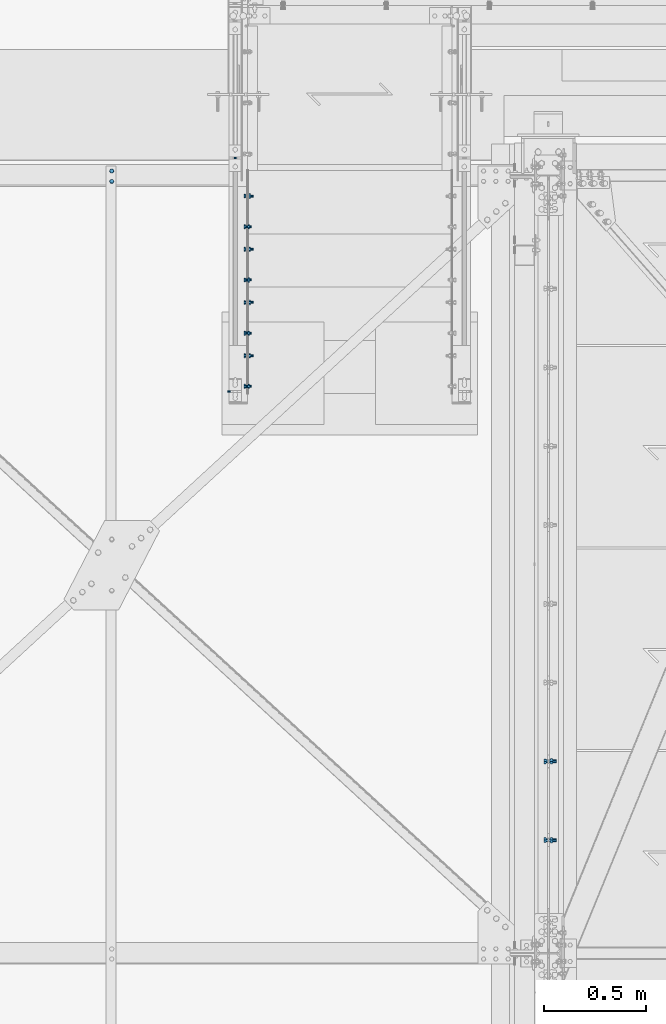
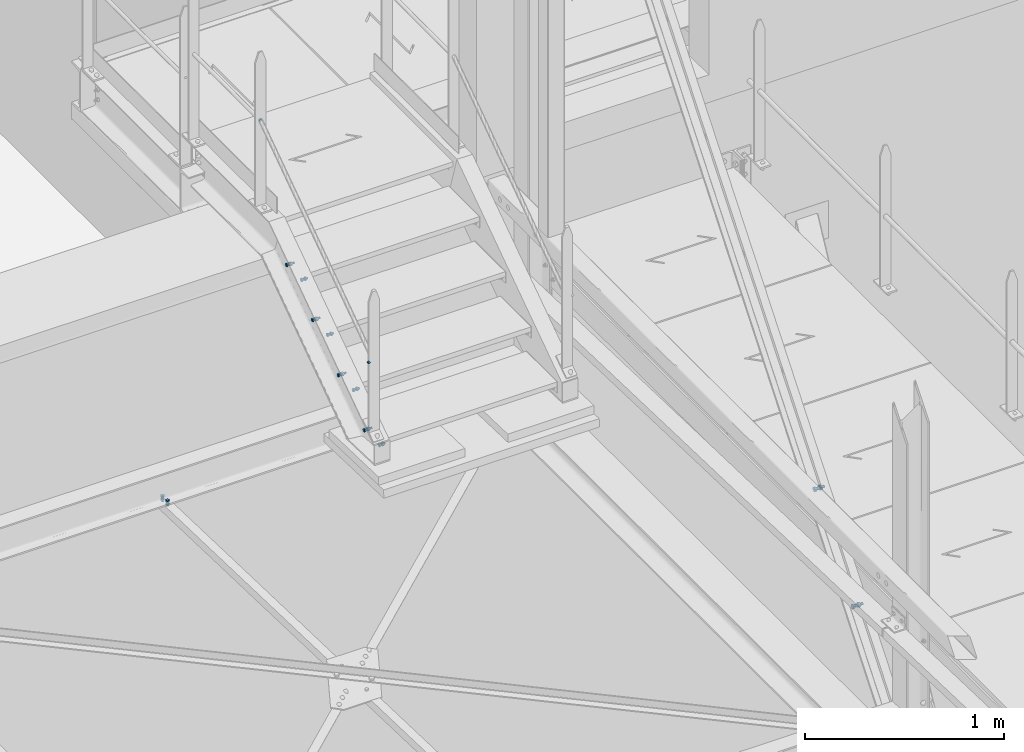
# One storey, part 250 of 362: 13 mechanical fasteners.
"""IFC2X3 building model written with IfcOpenShell, lengths in millimetres."""

from ifc_helpers import new_model, si_unit, frame, frame_2d, origin_with_axes, origin_2d_with_axis, place, context, subcontext, project, spatial, polyline, circle_curve, parameter, trimmed, segment, composite_curve, circle, outline, extrude, source, transform, mapped, material, type_object, element, save


model = new_model("IFC2X3")

# Units and contexts
model_context = context("Model", 3, precision=1e-05, world=origin_with_axes())
body_context = subcontext(model_context, "Body", "Model", "MODEL_VIEW")
ifc_project = project(units=[si_unit("LENGTHUNIT", "METRE", prefix="MILLI"), si_unit("AREAUNIT", "SQUARE_METRE"), si_unit("VOLUMEUNIT", "CUBIC_METRE"), si_unit("MASSUNIT", "GRAM", prefix="KILO"), si_unit("TIMEUNIT", "SECOND"), si_unit("PLANEANGLEUNIT", "RADIAN"), si_unit("SOLIDANGLEUNIT", "STERADIAN"), si_unit("THERMODYNAMICTEMPERATUREUNIT", "DEGREE_CELSIUS"), si_unit("LUMINOUSINTENSITYUNIT", "LUMEN")], contexts=[model_context])

# Site, building, storey
site_placement = place(None, origin_with_axes())
site = spatial("IfcSite", under=ifc_project, at=site_placement, Name="Undefined", CompositionType="ELEMENT")
building_placement = place(site_placement, origin_with_axes())
building = spatial("IfcBuilding", under=site, at=building_placement, Name="Undefined", CompositionType="ELEMENT")
storey_placement = place(building_placement, origin_with_axes())
storey = spatial("IfcBuildingStorey", under=building, at=storey_placement, Name="Undefined", CompositionType="ELEMENT", Elevation=0.0)

# Mechanical fasteners
ifc_material_1 = material(Name="6.8")
mechanical_fastener_type = type_object("IfcMechanicalFastenerType", Name="Bolt assembly")
shared_shape_1 = source(origin_with_axes(), body_context, "Body", "SweptSolid", [
    extrude(circle(Radius=7.0, at=origin_2d_with_axis()), frame((0.0, 6.26397177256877e-05, 0.0), z_axis=(0.0, 1.0, 0.0), x_axis=(1.0, 0.0, 0.0)), (0.0, 0.0, 1.0), 10.1),
])
mechanical_fastener_1_placement = place(storey_placement, frame((11149.9863365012, 15290.0038659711, 9438.8), z_axis=(0.0, 0.0, -1.0), x_axis=(1.0, 0.0, 0.0)))
element("IfcMechanicalFastener", 1, at=mechanical_fastener_1_placement, inside=storey, type_object=mechanical_fastener_type, material=ifc_material_1, Name="Bolt assembly", NominalDiameter=12.0, NominalLength=10.0, context=body_context, shape_type="MappedRepresentation", body=[
    mapped(shared_shape_1, transform((0.0, 0.0, 0.0))),
])
shared_shape_2 = source(origin_with_axes(), body_context, "Body", "SweptSolid", [
    extrude(circle(Radius=7.0, at=origin_2d_with_axis()), frame((0.0, 0.000125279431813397, 0.0), z_axis=(0.0, 1.0, 0.0), x_axis=(1.0, 0.0, 0.0)), (0.0, 0.0, 1.0), 10.1),
])
mechanical_fastener_2_placement = place(storey_placement, frame((11119.9864722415, 14149.9999163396, 8654.59997578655), z_axis=(0.0, 0.0, -1.0), x_axis=(1.0, 0.0, 0.0)))
element("IfcMechanicalFastener", 2, at=mechanical_fastener_2_placement, inside=storey, type_object=mechanical_fastener_type, material=ifc_material_1, Name="Bolt assembly", NominalDiameter=12.0, NominalLength=10.0, context=body_context, shape_type="MappedRepresentation", body=[
    mapped(shared_shape_2, transform((0.0, 0.0, 0.0))),
])
ifc_material_2 = material(Name="8.8-SB-GALVA")
shared_shape_3 = source(origin_with_axes(), body_context, "Body", "SweptSolid", [
    extrude(circle(Radius=7.0, at=origin_2d_with_axis()), frame((0.0, -9.88995939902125, 0.0), z_axis=(0.0, 1.0, 0.0), x_axis=(1.0, 0.0, 0.0)), (0.0, 0.0, 1.0), 10.0),
    extrude(circle(Radius=7.0, at=origin_2d_with_axis()), frame((0.0, -0.100011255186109, 0.0), z_axis=(0.0, 1.0, 0.0), x_axis=(1.0, 0.0, 0.0)), (0.0, 0.0, 1.0), 3.1),
    extrude(outline(polyline([(10.39230484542, 0.0), (5.19615242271, 9.00000000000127), (-5.19615242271, 9.00000000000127), (-10.39230484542, 0.0), (-5.19615242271, -9.00000000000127), (5.19615242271, -9.00000000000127), (10.39230484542, 0.0)])), frame((0.0, -17.9099593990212, 0.0), z_axis=(0.0, 1.0, 0.0), x_axis=(1.0, 0.0, 0.0)), (0.0, 0.0, 1.0), 7.92),
    extrude(circle(Radius=6.0, at=origin_2d_with_axis()), frame((0.0, -9.98995939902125, 0.0), z_axis=(0.0, 1.0, 0.0), x_axis=(1.0, 0.0, 0.0)), (0.0, 0.0, 1.0), 30.0),
    extrude(outline(polyline([(11.5008173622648, 0.0), (5.7504086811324, 9.96000000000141), (-5.7504086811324, 9.96000000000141), (-11.5008173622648, 0.0), (-5.7504086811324, -9.96000000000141), (5.7504086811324, -9.96000000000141), (11.5008173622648, 0.0)])), frame((0.0, 3.00000067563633, 0.0), z_axis=(0.0, 1.0, 0.0), x_axis=(1.0, 0.0, 0.0)), (0.0, 0.0, 1.0), 7.92),
])
mechanical_fastener_3_placement = place(storey_placement, frame((11209.9947340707, 14949.9997910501, 8645.0), z_axis=(0.0, 0.0, -1.0), x_axis=(0.0, 1.0, 0.0)))
element("IfcMechanicalFastener", 3, at=mechanical_fastener_3_placement, inside=storey, type_object=mechanical_fastener_type, material=ifc_material_2, Name="Bolt assembly", NominalDiameter=12.0, NominalLength=30.0, context=body_context, shape_type="MappedRepresentation", body=[
    mapped(shared_shape_3, transform((0.0, 0.0, 0.0))),
])
shared_shape_4 = source(origin_with_axes(), body_context, "Body", "SweptSolid", [
    extrude(circle(Radius=7.0, at=origin_2d_with_axis()), frame((0.0, -9.88995939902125, 0.0), z_axis=(0.0, 1.0, 0.0), x_axis=(1.0, 0.0, 0.0)), (0.0, 0.0, 1.0), 10.0),
    extrude(outline(composite_curve([segment(polyline([(-7.0, 7.0), (7.0, 7.0)]), True, "CONTINUOUS"), segment(trimmed(circle_curve(frame_2d((7.0, 0.0), x_axis=(0.0, 1.0)), 7.0), [parameter(0.0)], [parameter(3.14159265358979)], False, "PARAMETER"), True, "CONTINUOUS"), segment(polyline([(7.0, -7.0), (-7.0, -7.0)]), True, "CONTINUOUS"), segment(trimmed(circle_curve(frame_2d((-7.0, 0.0), x_axis=(0.0, -1.0)), 7.0), [parameter(0.0)], [parameter(3.14159265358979)], False, "PARAMETER"), True, "DISCONTINUOUS")], self_intersect=False)), frame((0.0, -0.100011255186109, 0.0), z_axis=(0.0, 1.0, 0.0), x_axis=(1.0, 0.0, 0.0)), (0.0, 0.0, 1.0), 3.1),
    extrude(outline(polyline([(10.39230484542, 0.0), (5.19615242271, 9.00000000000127), (-5.19615242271, 9.00000000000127), (-10.39230484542, 0.0), (-5.19615242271, -9.00000000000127), (5.19615242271, -9.00000000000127), (10.39230484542, 0.0)])), frame((0.0, -17.9099593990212, 0.0), z_axis=(0.0, 1.0, 0.0), x_axis=(1.0, 0.0, 0.0)), (0.0, 0.0, 1.0), 7.92),
    extrude(circle(Radius=6.0, at=origin_2d_with_axis()), frame((0.0, -9.98995939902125, 0.0), z_axis=(0.0, 1.0, 0.0), x_axis=(1.0, 0.0, 0.0)), (0.0, 0.0, 1.0), 40.0),
    extrude(circle(Radius=10.8, at=origin_2d_with_axis()), frame((0.0, 3.00000067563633, 0.0), z_axis=(0.0, 1.0, 0.0), x_axis=(1.0, 0.0, 0.0)), (0.0, 0.0, 1.0), 3.96),
    extrude(outline(polyline([(11.5008173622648, 0.0), (5.7504086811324, 9.96000000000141), (-5.7504086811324, 9.96000000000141), (-11.5008173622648, 0.0), (-5.7504086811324, -9.96000000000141), (5.7504086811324, -9.96000000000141), (11.5008173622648, 0.0)])), frame((0.0, 6.96, 0.0), z_axis=(0.0, 1.0, 0.0), x_axis=(1.0, 0.0, 0.0)), (0.0, 0.0, 1.0), 7.92),
])
mechanical_fastener_4_placement = place(storey_placement, frame((11209.9947340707, 15099.9997910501, 8645.0), z_axis=(0.0, 0.0, -1.0), x_axis=(0.0, 1.0, 0.0)))
element("IfcMechanicalFastener", 4, at=mechanical_fastener_4_placement, inside=storey, type_object=mechanical_fastener_type, material=ifc_material_2, Name="Bolt assembly", NominalDiameter=12.0, NominalLength=40.0, context=body_context, shape_type="MappedRepresentation", body=[
    mapped(shared_shape_4, transform((0.0, 0.0, 0.0))),
])
shared_shape_5 = source(origin_with_axes(), body_context, "Body", "SweptSolid", [
    extrude(circle(Radius=7.0, at=origin_2d_with_axis()), frame((0.0, -9.88941643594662, 0.0), z_axis=(0.0, 1.0, 0.0), x_axis=(1.0, 0.0, 0.0)), (0.0, 0.0, 1.0), 10.0),
    extrude(circle(Radius=7.0, at=origin_2d_with_axis()), frame((0.0, -0.100011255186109, 0.0), z_axis=(0.0, 1.0, 0.0), x_axis=(1.0, 0.0, 0.0)), (0.0, 0.0, 1.0), 3.1),
    extrude(outline(polyline([(10.39230484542, 0.0), (5.19615242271, 9.00000000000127), (-5.19615242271, 9.00000000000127), (-10.39230484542, 0.0), (-5.19615242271, -9.00000000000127), (5.19615242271, -9.00000000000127), (10.39230484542, 0.0)])), frame((0.0, -17.9094164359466, 0.0), z_axis=(0.0, 1.0, 0.0), x_axis=(1.0, 0.0, 0.0)), (0.0, 0.0, 1.0), 7.92),
    extrude(circle(Radius=6.0, at=origin_2d_with_axis()), frame((0.0, -9.98941643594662, 0.0), z_axis=(0.0, 1.0, 0.0), x_axis=(1.0, 0.0, 0.0)), (0.0, 0.0, 1.0), 30.0),
    extrude(outline(polyline([(11.5008173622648, 0.0), (5.7504086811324, 9.96000000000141), (-5.7504086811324, 9.96000000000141), (-11.5008173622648, 0.0), (-5.7504086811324, -9.96000000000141), (5.7504086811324, -9.96000000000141), (11.5008173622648, 0.0)])), frame((0.0, 3.00000067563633, 0.0), z_axis=(0.0, 1.0, 0.0), x_axis=(1.0, 0.0, 0.0)), (0.0, 0.0, 1.0), 7.92),
])
mechanical_fastener_5_placement = place(storey_placement, frame((11209.9947340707, 14689.9997910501, 8465.00000004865), z_axis=(0.0, 0.0, -1.0), x_axis=(0.0, 1.0, 0.0)))
element("IfcMechanicalFastener", 5, at=mechanical_fastener_5_placement, inside=storey, type_object=mechanical_fastener_type, material=ifc_material_2, Name="Bolt assembly", NominalDiameter=12.0, NominalLength=30.0, context=body_context, shape_type="MappedRepresentation", body=[
    mapped(shared_shape_5, transform((0.0, 0.0, 0.0))),
])
shared_shape_6 = source(origin_with_axes(), body_context, "Body", "SweptSolid", [
    extrude(circle(Radius=7.0, at=origin_2d_with_axis()), frame((0.0, -9.88941643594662, 0.0), z_axis=(0.0, 1.0, 0.0), x_axis=(1.0, 0.0, 0.0)), (0.0, 0.0, 1.0), 10.0),
    extrude(outline(composite_curve([segment(polyline([(-7.0, 7.0), (7.0, 7.0)]), True, "CONTINUOUS"), segment(trimmed(circle_curve(frame_2d((7.0, 0.0), x_axis=(0.0, 1.0)), 7.0), [parameter(0.0)], [parameter(3.14159265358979)], False, "PARAMETER"), True, "CONTINUOUS"), segment(polyline([(7.0, -7.0), (-7.0, -7.0)]), True, "CONTINUOUS"), segment(trimmed(circle_curve(frame_2d((-7.0, 0.0), x_axis=(0.0, -1.0)), 7.0), [parameter(0.0)], [parameter(3.14159265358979)], False, "PARAMETER"), True, "DISCONTINUOUS")], self_intersect=False)), frame((0.0, -0.100011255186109, 0.0), z_axis=(0.0, 1.0, 0.0), x_axis=(1.0, 0.0, 0.0)), (0.0, 0.0, 1.0), 3.1),
    extrude(outline(polyline([(10.39230484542, 0.0), (5.19615242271, 9.00000000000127), (-5.19615242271, 9.00000000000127), (-10.39230484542, 0.0), (-5.19615242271, -9.00000000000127), (5.19615242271, -9.00000000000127), (10.39230484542, 0.0)])), frame((0.0, -17.9094164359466, 0.0), z_axis=(0.0, 1.0, 0.0), x_axis=(1.0, 0.0, 0.0)), (0.0, 0.0, 1.0), 7.92),
    extrude(circle(Radius=6.0, at=origin_2d_with_axis()), frame((0.0, -9.98941643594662, 0.0), z_axis=(0.0, 1.0, 0.0), x_axis=(1.0, 0.0, 0.0)), (0.0, 0.0, 1.0), 40.0),
    extrude(circle(Radius=10.8, at=origin_2d_with_axis()), frame((0.0, 3.00000067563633, 0.0), z_axis=(0.0, 1.0, 0.0), x_axis=(1.0, 0.0, 0.0)), (0.0, 0.0, 1.0), 3.96),
    extrude(outline(polyline([(11.5008173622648, 0.0), (5.7504086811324, 9.96000000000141), (-5.7504086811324, 9.96000000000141), (-11.5008173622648, 0.0), (-5.7504086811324, -9.96000000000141), (5.7504086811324, -9.96000000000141), (11.5008173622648, 0.0)])), frame((0.0, 6.96, 0.0), z_axis=(0.0, 1.0, 0.0), x_axis=(1.0, 0.0, 0.0)), (0.0, 0.0, 1.0), 7.92),
])
mechanical_fastener_6_placement = place(storey_placement, frame((11209.9947340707, 14839.9997910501, 8465.00000004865), z_axis=(0.0, 0.0, -1.0), x_axis=(0.0, 1.0, 0.0)))
element("IfcMechanicalFastener", 6, at=mechanical_fastener_6_placement, inside=storey, type_object=mechanical_fastener_type, material=ifc_material_2, Name="Bolt assembly", NominalDiameter=12.0, NominalLength=40.0, context=body_context, shape_type="MappedRepresentation", body=[
    mapped(shared_shape_6, transform((0.0, 0.0, 0.0))),
])
shared_shape_7 = source(origin_with_axes(), body_context, "Body", "SweptSolid", [
    extrude(circle(Radius=7.0, at=origin_2d_with_axis()), frame((0.0, -9.888873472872, 0.0), z_axis=(0.0, 1.0, 0.0), x_axis=(1.0, 0.0, 0.0)), (0.0, 0.0, 1.0), 10.0),
    extrude(circle(Radius=7.0, at=origin_2d_with_axis()), frame((0.0, -0.100011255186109, 0.0), z_axis=(0.0, 1.0, 0.0), x_axis=(1.0, 0.0, 0.0)), (0.0, 0.0, 1.0), 3.1),
    extrude(outline(polyline([(10.39230484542, 0.0), (5.19615242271, 9.00000000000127), (-5.19615242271, 9.00000000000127), (-10.39230484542, 0.0), (-5.19615242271, -9.00000000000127), (5.19615242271, -9.00000000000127), (10.39230484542, 0.0)])), frame((0.0, -17.908873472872, 0.0), z_axis=(0.0, 1.0, 0.0), x_axis=(1.0, 0.0, 0.0)), (0.0, 0.0, 1.0), 7.92),
    extrude(circle(Radius=6.0, at=origin_2d_with_axis()), frame((0.0, -9.988873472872, 0.0), z_axis=(0.0, 1.0, 0.0), x_axis=(1.0, 0.0, 0.0)), (0.0, 0.0, 1.0), 30.0),
    extrude(outline(polyline([(11.5008173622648, 0.0), (5.7504086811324, 9.96000000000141), (-5.7504086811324, 9.96000000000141), (-11.5008173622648, 0.0), (-5.7504086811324, -9.96000000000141), (5.7504086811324, -9.96000000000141), (11.5008173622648, 0.0)])), frame((0.0, 3.00000067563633, 0.0), z_axis=(0.0, 1.0, 0.0), x_axis=(1.0, 0.0, 0.0)), (0.0, 0.0, 1.0), 7.92),
])
mechanical_fastener_7_placement = place(storey_placement, frame((11209.9947340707, 14429.9997910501, 8285.00000007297), z_axis=(0.0, 0.0, -1.0), x_axis=(0.0, 1.0, 0.0)))
element("IfcMechanicalFastener", 7, at=mechanical_fastener_7_placement, inside=storey, type_object=mechanical_fastener_type, material=ifc_material_2, Name="Bolt assembly", NominalDiameter=12.0, NominalLength=30.0, context=body_context, shape_type="MappedRepresentation", body=[
    mapped(shared_shape_7, transform((0.0, 0.0, 0.0))),
])
shared_shape_8 = source(origin_with_axes(), body_context, "Body", "SweptSolid", [
    extrude(circle(Radius=7.0, at=origin_2d_with_axis()), frame((0.0, -9.888873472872, 0.0), z_axis=(0.0, 1.0, 0.0), x_axis=(1.0, 0.0, 0.0)), (0.0, 0.0, 1.0), 10.0),
    extrude(outline(composite_curve([segment(polyline([(-7.0, 7.0), (7.0, 7.0)]), True, "CONTINUOUS"), segment(trimmed(circle_curve(frame_2d((7.0, 0.0), x_axis=(0.0, 1.0)), 7.0), [parameter(0.0)], [parameter(3.14159265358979)], False, "PARAMETER"), True, "CONTINUOUS"), segment(polyline([(7.0, -7.0), (-7.0, -7.0)]), True, "CONTINUOUS"), segment(trimmed(circle_curve(frame_2d((-7.0, 0.0), x_axis=(0.0, -1.0)), 7.0), [parameter(0.0)], [parameter(3.14159265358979)], False, "PARAMETER"), True, "DISCONTINUOUS")], self_intersect=False)), frame((0.0, -0.100011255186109, 0.0), z_axis=(0.0, 1.0, 0.0), x_axis=(1.0, 0.0, 0.0)), (0.0, 0.0, 1.0), 3.1),
    extrude(outline(polyline([(10.39230484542, 0.0), (5.19615242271, 9.00000000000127), (-5.19615242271, 9.00000000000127), (-10.39230484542, 0.0), (-5.19615242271, -9.00000000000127), (5.19615242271, -9.00000000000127), (10.39230484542, 0.0)])), frame((0.0, -17.908873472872, 0.0), z_axis=(0.0, 1.0, 0.0), x_axis=(1.0, 0.0, 0.0)), (0.0, 0.0, 1.0), 7.92),
    extrude(circle(Radius=6.0, at=origin_2d_with_axis()), frame((0.0, -9.988873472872, 0.0), z_axis=(0.0, 1.0, 0.0), x_axis=(1.0, 0.0, 0.0)), (0.0, 0.0, 1.0), 40.0),
    extrude(circle(Radius=10.8, at=origin_2d_with_axis()), frame((0.0, 3.00000067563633, 0.0), z_axis=(0.0, 1.0, 0.0), x_axis=(1.0, 0.0, 0.0)), (0.0, 0.0, 1.0), 3.96),
    extrude(outline(polyline([(11.5008173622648, 0.0), (5.7504086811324, 9.96000000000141), (-5.7504086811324, 9.96000000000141), (-11.5008173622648, 0.0), (-5.7504086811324, -9.96000000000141), (5.7504086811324, -9.96000000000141), (11.5008173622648, 0.0)])), frame((0.0, 6.96, 0.0), z_axis=(0.0, 1.0, 0.0), x_axis=(1.0, 0.0, 0.0)), (0.0, 0.0, 1.0), 7.92),
])
mechanical_fastener_8_placement = place(storey_placement, frame((11209.9947340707, 14579.9997910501, 8285.00000007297), z_axis=(0.0, 0.0, -1.0), x_axis=(0.0, 1.0, 0.0)))
element("IfcMechanicalFastener", 8, at=mechanical_fastener_8_placement, inside=storey, type_object=mechanical_fastener_type, material=ifc_material_2, Name="Bolt assembly", NominalDiameter=12.0, NominalLength=40.0, context=body_context, shape_type="MappedRepresentation", body=[
    mapped(shared_shape_8, transform((0.0, 0.0, 0.0))),
])
shared_shape_9 = source(origin_with_axes(), body_context, "Body", "SweptSolid", [
    extrude(circle(Radius=7.0, at=origin_2d_with_axis()), frame((0.0, -9.88833050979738, 0.0), z_axis=(0.0, 1.0, 0.0), x_axis=(1.0, 0.0, 0.0)), (0.0, 0.0, 1.0), 10.0),
    extrude(circle(Radius=7.0, at=origin_2d_with_axis()), frame((0.0, -0.100011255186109, 0.0), z_axis=(0.0, 1.0, 0.0), x_axis=(1.0, 0.0, 0.0)), (0.0, 0.0, 1.0), 3.1),
    extrude(outline(polyline([(10.39230484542, 0.0), (5.19615242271, 9.00000000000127), (-5.19615242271, 9.00000000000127), (-10.39230484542, 0.0), (-5.19615242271, -9.00000000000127), (5.19615242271, -9.00000000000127), (10.39230484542, 0.0)])), frame((0.0, -17.9083305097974, 0.0), z_axis=(0.0, 1.0, 0.0), x_axis=(1.0, 0.0, 0.0)), (0.0, 0.0, 1.0), 7.92),
    extrude(circle(Radius=6.0, at=origin_2d_with_axis()), frame((0.0, -9.98833050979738, 0.0), z_axis=(0.0, 1.0, 0.0), x_axis=(1.0, 0.0, 0.0)), (0.0, 0.0, 1.0), 30.0),
    extrude(outline(polyline([(11.5008173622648, 0.0), (5.7504086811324, 9.96000000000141), (-5.7504086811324, 9.96000000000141), (-11.5008173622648, 0.0), (-5.7504086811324, -9.96000000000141), (5.7504086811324, -9.96000000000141), (11.5008173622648, 0.0)])), frame((0.0, 3.00000067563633, 0.0), z_axis=(0.0, 1.0, 0.0), x_axis=(1.0, 0.0, 0.0)), (0.0, 0.0, 1.0), 7.92),
])
mechanical_fastener_9_placement = place(storey_placement, frame((11209.9947340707, 14169.9997910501, 8105.0000000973), z_axis=(0.0, 0.0, -1.0), x_axis=(0.0, 1.0, 0.0)))
element("IfcMechanicalFastener", 9, at=mechanical_fastener_9_placement, inside=storey, type_object=mechanical_fastener_type, material=ifc_material_2, Name="Bolt assembly", NominalDiameter=12.0, NominalLength=30.0, context=body_context, shape_type="MappedRepresentation", body=[
    mapped(shared_shape_9, transform((0.0, 0.0, 0.0))),
])
shared_shape_10 = source(origin_with_axes(), body_context, "Body", "SweptSolid", [
    extrude(circle(Radius=7.0, at=origin_2d_with_axis()), frame((0.0, -9.88833050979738, 0.0), z_axis=(0.0, 1.0, 0.0), x_axis=(1.0, 0.0, 0.0)), (0.0, 0.0, 1.0), 10.0),
    extrude(outline(composite_curve([segment(polyline([(-7.0, 7.0), (7.0, 7.0)]), True, "CONTINUOUS"), segment(trimmed(circle_curve(frame_2d((7.0, 0.0), x_axis=(0.0, 1.0)), 7.0), [parameter(0.0)], [parameter(3.14159265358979)], False, "PARAMETER"), True, "CONTINUOUS"), segment(polyline([(7.0, -7.0), (-7.0, -7.0)]), True, "CONTINUOUS"), segment(trimmed(circle_curve(frame_2d((-7.0, 0.0), x_axis=(0.0, -1.0)), 7.0), [parameter(0.0)], [parameter(3.14159265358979)], False, "PARAMETER"), True, "DISCONTINUOUS")], self_intersect=False)), frame((0.0, -0.100011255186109, 0.0), z_axis=(0.0, 1.0, 0.0), x_axis=(1.0, 0.0, 0.0)), (0.0, 0.0, 1.0), 3.1),
    extrude(outline(polyline([(10.39230484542, 0.0), (5.19615242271, 9.00000000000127), (-5.19615242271, 9.00000000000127), (-10.39230484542, 0.0), (-5.19615242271, -9.00000000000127), (5.19615242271, -9.00000000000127), (10.39230484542, 0.0)])), frame((0.0, -17.9083305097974, 0.0), z_axis=(0.0, 1.0, 0.0), x_axis=(1.0, 0.0, 0.0)), (0.0, 0.0, 1.0), 7.92),
    extrude(circle(Radius=6.0, at=origin_2d_with_axis()), frame((0.0, -9.98833050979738, 0.0), z_axis=(0.0, 1.0, 0.0), x_axis=(1.0, 0.0, 0.0)), (0.0, 0.0, 1.0), 40.0),
    extrude(circle(Radius=10.8, at=origin_2d_with_axis()), frame((0.0, 3.00000067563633, 0.0), z_axis=(0.0, 1.0, 0.0), x_axis=(1.0, 0.0, 0.0)), (0.0, 0.0, 1.0), 3.96),
    extrude(outline(polyline([(11.5008173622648, 0.0), (5.7504086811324, 9.96000000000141), (-5.7504086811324, 9.96000000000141), (-11.5008173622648, 0.0), (-5.7504086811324, -9.96000000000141), (5.7504086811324, -9.96000000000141), (11.5008173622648, 0.0)])), frame((0.0, 6.96, 0.0), z_axis=(0.0, 1.0, 0.0), x_axis=(1.0, 0.0, 0.0)), (0.0, 0.0, 1.0), 7.92),
])
mechanical_fastener_10_placement = place(storey_placement, frame((11209.9947340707, 14319.9997910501, 8105.0000000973), z_axis=(0.0, 0.0, -1.0), x_axis=(0.0, 1.0, 0.0)))
element("IfcMechanicalFastener", 10, at=mechanical_fastener_10_placement, inside=storey, type_object=mechanical_fastener_type, material=ifc_material_2, Name="Bolt assembly", NominalDiameter=12.0, NominalLength=40.0, context=body_context, shape_type="MappedRepresentation", body=[
    mapped(shared_shape_10, transform((0.0, 0.0, 0.0))),
])
ifc_material_3 = material(Name="8.8-SB-ZINGUE")
shared_shape_11 = source(origin_with_axes(), body_context, "Body", "SweptSolid", [
    extrude(circle(Radius=9.0, at=origin_2d_with_axis()), frame((0.0, -10.9000000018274, 0.0), z_axis=(0.0, 1.0, 0.0), x_axis=(1.0, 0.0, 0.0)), (0.0, 0.0, 1.0), 6.0),
    extrude(circle(Radius=9.0, at=origin_2d_with_axis()), frame((0.0, 4.9000000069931, 0.0), z_axis=(0.0, 1.0, 0.0), x_axis=(1.0, 0.0, 0.0)), (0.0, 0.0, 1.0), 6.1),
    extrude(circle(Radius=9.0, at=origin_2d_with_axis()), frame((0.0, -3.99999923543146, 0.0), z_axis=(0.0, 1.0, 0.0), x_axis=(1.0, 0.0, 0.0)), (0.0, 0.0, 1.0), 8.0),
    extrude(outline(polyline([(13.85640646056, 0.0), (6.92820323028, 12.0000000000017), (-6.92820323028, 12.0000000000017), (-13.85640646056, 0.0), (-6.92820323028, -12.0000000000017), (6.92820323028, -12.0000000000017), (13.85640646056, 0.0)])), frame((0.0, -21.5600000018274, 0.0), z_axis=(0.0, 1.0, 0.0), x_axis=(1.0, 0.0, 0.0)), (0.0, 0.0, 1.0), 10.56),
    extrude(circle(Radius=8.0, at=origin_2d_with_axis()), frame((0.0, -11.0000000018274, 0.0), z_axis=(0.0, 1.0, 0.0), x_axis=(1.0, 0.0, 0.0)), (0.0, 0.0, 1.0), 50.0),
    extrude(outline(polyline([(15.3344231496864, 0.0), (7.6672115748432, 13.2800000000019), (-7.6672115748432, 13.2800000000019), (-15.3344231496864, 0.0), (-7.6672115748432, -13.2800000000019), (7.6672115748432, -13.2800000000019), (15.3344231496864, 0.0)])), frame((0.0, 11.0000000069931, 0.0), z_axis=(0.0, 1.0, 0.0), x_axis=(1.0, 0.0, 0.0)), (0.0, 0.0, 1.0), 10.56),
])
for number, where, z_axis, x_axis, name in (
    (11, (12680.0, 11952.7871042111, 7946.36627818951), (0.0, 1.0, 0.0), (0.0, 0.0, 1.0), "Bolt assembly"),
    (12, (12680.0, 12337.7050746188, 8431.26162713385), (0.0, 1.0, 0.0), (0.0, 0.0, 1.0), "Bolt assembly"),
):
    element("IfcMechanicalFastener", number, at=place(storey_placement, frame(where, z_axis=z_axis, x_axis=x_axis)), inside=storey, type_object=mechanical_fastener_type, material=ifc_material_3, Name=name, NominalDiameter=16.0, NominalLength=50.0, context=body_context, shape_type="MappedRepresentation", body=[
        mapped(shared_shape_11, transform((0.0, 0.0, 0.0))),
    ])
shared_shape_12 = source(origin_with_axes(), body_context, "Body", "SweptSolid", [
    extrude(circle(Radius=7.0, at=origin_2d_with_axis()), frame((0.0, -8.40001950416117, 0.0), z_axis=(0.0, 1.0, 0.0), x_axis=(1.0, 0.0, 0.0)), (0.0, 0.0, 1.0), 8.5),
    extrude(circle(Radius=7.0, at=origin_2d_with_axis()), frame((0.0, -0.100011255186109, 0.0), z_axis=(0.0, 1.0, 0.0), x_axis=(1.0, 0.0, 0.0)), (0.0, 0.0, 1.0), 5.1),
    extrude(outline(polyline([(10.39230484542, 0.0), (5.19615242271, 9.00000000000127), (-5.19615242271, 9.00000000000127), (-10.39230484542, 0.0), (-5.19615242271, -9.00000000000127), (5.19615242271, -9.00000000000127), (10.39230484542, 0.0)])), frame((0.0, -16.4200195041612, 0.0), z_axis=(0.0, 1.0, 0.0), x_axis=(1.0, 0.0, 0.0)), (0.0, 0.0, 1.0), 7.92),
    extrude(circle(Radius=6.0, at=origin_2d_with_axis()), frame((0.0, -8.5, 0.0), z_axis=(0.0, 1.0, 0.0), x_axis=(1.0, 0.0, 0.0)), (0.0, 0.0, 1.0), 30.0),
    extrude(outline(polyline([(11.5008173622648, 0.0), (5.7504086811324, 9.96000000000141), (-5.7504086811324, 9.96000000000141), (-11.5008173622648, 0.0), (-5.7504086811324, -9.96000000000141), (5.7504086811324, -9.96000000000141), (11.5008173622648, 0.0)])), frame((0.0, 5.0, 0.0), z_axis=(0.0, 1.0, 0.0), x_axis=(1.0, 0.0, 0.0)), (0.0, 0.0, 1.0), 7.92),
])
mechanical_fastener_11_placement = place(storey_placement, frame((10546.7500126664, 15196.8588781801, 7372.32065100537), z_axis=(0.0, -0.999506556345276, 0.031410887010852), x_axis=(-1.0, 0.0, 0.0)))
element("IfcMechanicalFastener", 13, at=mechanical_fastener_11_placement, inside=storey, type_object=mechanical_fastener_type, material=ifc_material_3, Name="Bolt assembly", NominalDiameter=12.0, NominalLength=30.0, context=body_context, shape_type="MappedRepresentation", body=[
    mapped(shared_shape_12, transform((0.0, 0.0, -25.0))),
    mapped(shared_shape_12, transform((0.0, 0.0, 25.0))),
])

save(model, "model.ifc")
